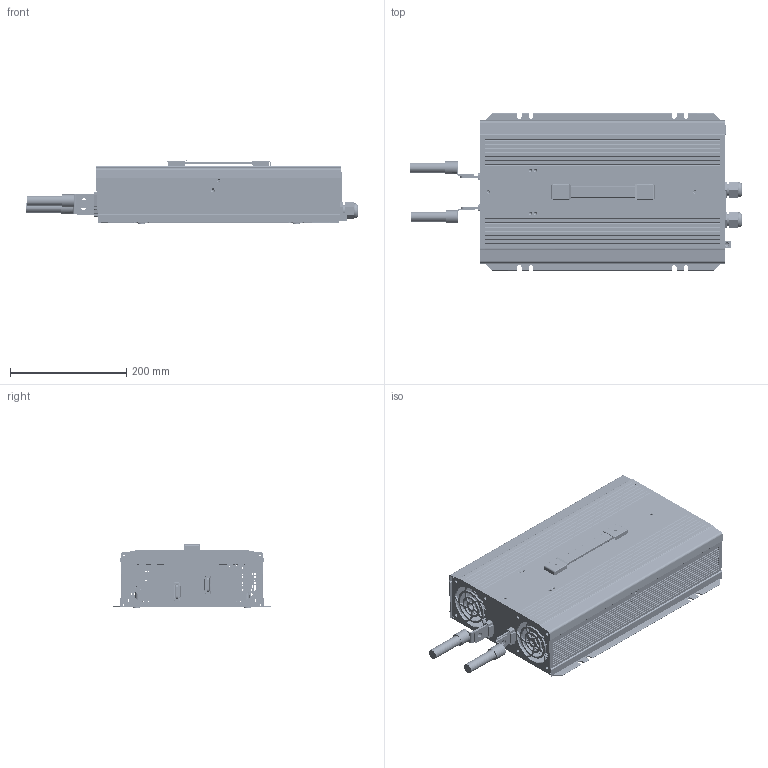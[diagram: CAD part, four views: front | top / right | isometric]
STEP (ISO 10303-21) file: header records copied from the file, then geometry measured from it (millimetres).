
FILE_DESCRIPTION(('Creo Elements/Direct Modeling STEP Export'),'2;1');
FILE_NAME('NTS-3200-CN.stp','2022-03-28T19:20:22',(''),(''),'PTC Creo Elements/Direct Modeling STEP processor for AP214 (Solid Model)','PTC Creo Elements/Direct Modeling 19.0E 27-Jun-2016 (C) Parametric Technology GmbH','');
FILE_SCHEMA(('AUTOMOTIVE_DESIGN { 1 0 10303 214 1 1 1 1 }'));
Length unit declared in the file: millimetre
Products named in the file (213): 零件9; 零件8; 零件7; 零件6; 零件5; 零件4; 零件3; 零件2; 零件12; 零件11; 零件10; 零件1; 电容; 中国插; 万国插片; open_shell.1; guwei1.1; guwei1; _S___S_O_S_JL; _S_4_X2_0192_X0__S__S_6_S___S_U; _S_4_X2_0192_X0__S_; TO220.21; TO220.9; TO220.8; TO220.7; TO220.6; TO220.5; TO220.4; TO220.3; TO220.20; TO220.2; TO220.19; TO220.18; TO220.17; TO220.16; TO220.15; TO220.14; TO220.13; TO220.12; TO220.11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
Assembly tree (121 placements, depth 2):
  零件9
  零件8
  零件7
  零件6
  零件5
    零件5
Bounding box: 570.16 x 270 x 108.65 mm (x, y, z)
Volume: 2412097.4 mm3; surface area: 2031360 mm2
Topology: 141 solids, 144 shells, 6997 faces, 18980 edges, 12549 vertices
Faces by surface type: plane 4294, cylinder 2327, cone 231, torus 122, bspline 16, sphere 4, extrusion 3
Entity records: 163792 total; most frequent: CARTESIAN_POINT 31262, ORIENTED_EDGE 27609, DIRECTION 25366, EDGE_CURVE 13807, VECTOR 9886, LINE 9883, VERTEX_POINT 9102, AXIS2_PLACEMENT_3D 7740
